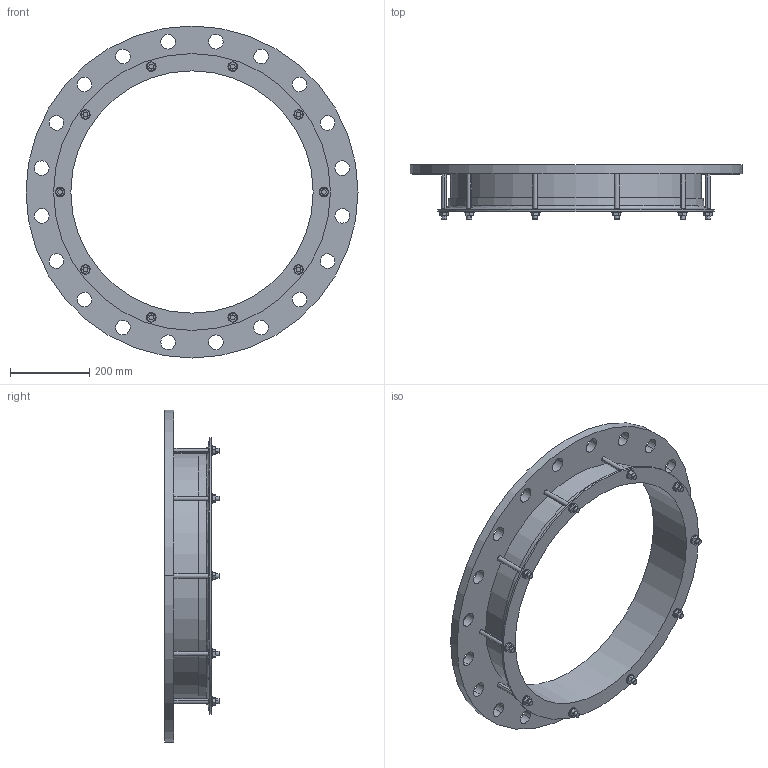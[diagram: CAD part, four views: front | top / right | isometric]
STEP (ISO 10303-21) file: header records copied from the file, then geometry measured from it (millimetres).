
FILE_DESCRIPTION((''),'2;1');
FILE_NAME('610X600PN16','2019-01-16T',('mfairey'),('Glynwed Pipe Systems'),'CREO PARAMETRIC BY PTC INC, 2016130','CREO PARAMETRIC BY PTC INC, 2016130','');
FILE_SCHEMA(('CONFIG_CONTROL_DESIGN'));
Length unit declared in the file: millimetre
Products named in the file (1): 610X600PN16
Bounding box: 840 x 137.45 x 840 mm (x, y, z)
Volume: 8415391.2 mm3; surface area: 1171219.6 mm2
Topology: 1 solids, 1 shells, 208 faces, 548 edges, 364 vertices
Faces by surface type: cylinder 108, plane 94, cone 4, torus 2
Entity records: 7202 total; most frequent: CARTESIAN_POINT 1756, DIRECTION 1132, ORIENTED_EDGE 1096, EDGE_CURVE 548, AXIS2_PLACEMENT_3D 420, VERTEX_POINT 364, VECTOR 292, LINE 292
